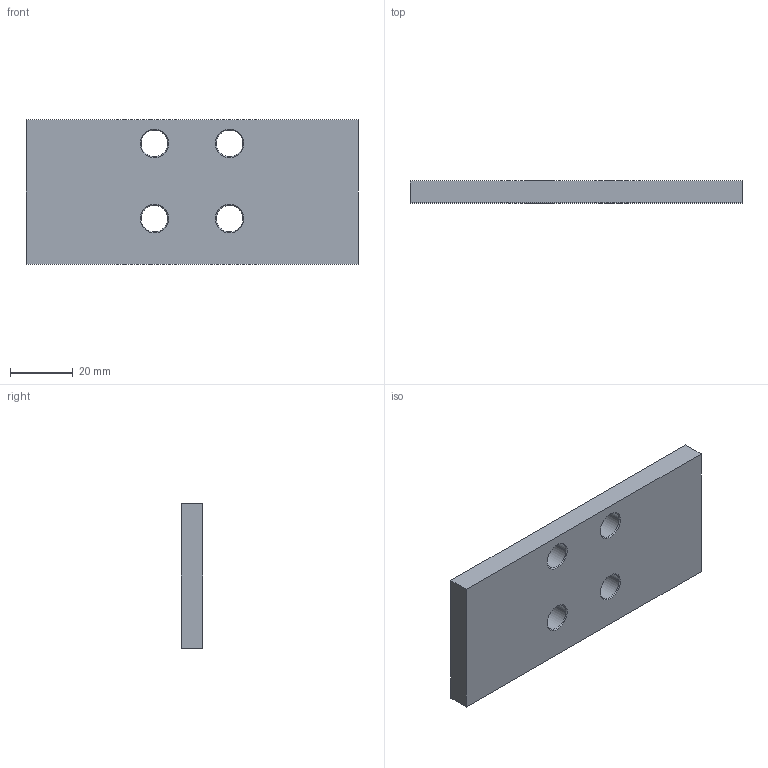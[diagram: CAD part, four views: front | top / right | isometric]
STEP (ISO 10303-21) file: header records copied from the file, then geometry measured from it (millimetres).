
FILE_DESCRIPTION((''),'2;1');
FILE_NAME('FRCK31-097','2018-10-04T10:38:20',('anacleto.m'),(''),'CREO PARAMETRIC BY PTC INC, 2018020','CREO PARAMETRIC BY PTC INC, 2018020','');
FILE_SCHEMA(('CONFIG_CONTROL_DESIGN'));
Length unit declared in the file: millimetre
Products named in the file (1): FRCK31-097
Bounding box: 106 x 7 x 46 mm (x, y, z)
Volume: 32533.3 mm3; surface area: 12137.1 mm2
Topology: 1 solids, 1 shells, 30 faces, 68 edges, 40 vertices
Faces by surface type: cone 16, cylinder 8, plane 6
Entity records: 890 total; most frequent: DIRECTION 160, CARTESIAN_POINT 138, ORIENTED_EDGE 136, EDGE_CURVE 68, AXIS2_PLACEMENT_3D 62, VERTEX_POINT 40, EDGE_LOOP 38, VECTOR 36
